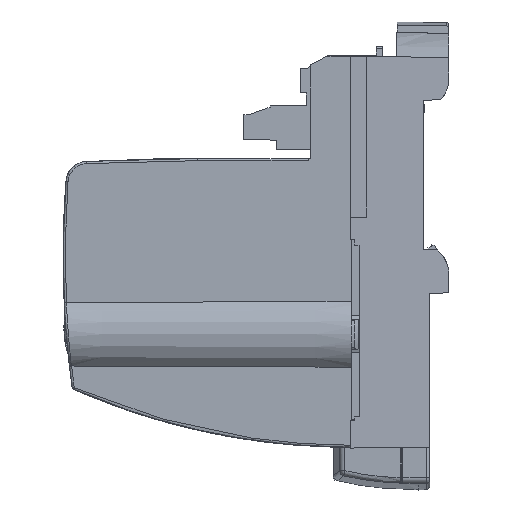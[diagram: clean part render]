
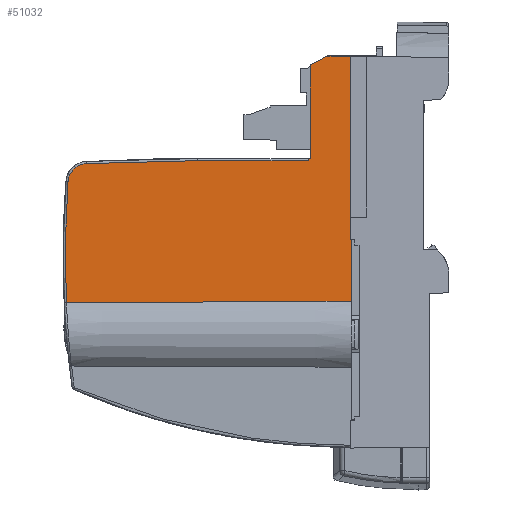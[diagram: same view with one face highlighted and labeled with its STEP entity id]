
A CAD part, left-side view. The second image highlights one B-rep face of the part: STEP entity #51032.
In plain terms, the highlighted planar face has unit normal (-1, 0.009, 0).
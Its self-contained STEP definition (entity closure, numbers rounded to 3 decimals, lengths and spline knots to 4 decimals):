
#291=DIRECTION('',(0.,0.,-1.));
#292=VECTOR('',#291,1.7088);
#293=CARTESIAN_POINT('',(2.7274,0.2813,0.7293));
#294=LINE('',#293,#292);
#303=DIRECTION('',(0.,0.,-1.));
#304=VECTOR('',#303,0.0003);
#305=CARTESIAN_POINT('',(2.7274,0.2763,
-0.9796));
#306=LINE('',#305,#304);
#307=DIRECTION('',(0.,0.,-1.));
#308=VECTOR('',#307,0.5803);
#309=CARTESIAN_POINT('',(2.7274,0.2763,
-0.9798));
#310=LINE('',#309,#308);
#311=DIRECTION('',(0.009,1.,0.));
#312=VECTOR('',#311,0.02);
#313=CARTESIAN_POINT('',(2.7307,0.6563,
-0.2248));
#314=LINE('',#313,#312);
#315=DIRECTION('',(0.,0.,-1.));
#316=VECTOR('',#315,0.876);
#317=CARTESIAN_POINT('',(2.7307,0.6563,0.6512));
#318=LINE('',#317,#316);
#319=DIRECTION('',(0.008,0.891,-0.454));
#320=VECTOR('',#319,0.174);
#321=CARTESIAN_POINT('',(2.7293,0.5013,0.7302));
#322=LINE('',#321,#320);
#323=DIRECTION('',(-0.009,-1.,0.));
#324=VECTOR('',#323,0.225);
#325=CARTESIAN_POINT('',(2.7293,0.5013,0.7302));
#326=LINE('',#325,#324);
#327=DIRECTION('',(0.,0.,-1.));
#328=VECTOR('',#327,0.0009);
#329=CARTESIAN_POINT('',(2.7274,0.2763,0.7302));
#330=LINE('',#329,#328);
#339=DIRECTION('',(-0.009,-1.,-0.009));
#340=VECTOR('',#339,0.005);
#341=CARTESIAN_POINT('',(2.7274,0.2813,
-0.9795));
#342=LINE('',#341,#340);
#2953=DIRECTION('',(-0.009,-1.,-0.009));
#2954=VECTOR('',#2953,0.005);
#2955=CARTESIAN_POINT('',(2.7274,0.2813,
0.7293));
#2956=LINE('',#2955,#2954);
#5787=CARTESIAN_POINT('',(2.7399,1.7122,
-0.2448));
#5788=CARTESIAN_POINT('',(2.7405,1.7815,
-0.2448));
#5789=CARTESIAN_POINT('',(2.7417,1.9202,
-0.2456));
#5790=CARTESIAN_POINT('',(2.7435,2.1282,
-0.2488));
#5791=CARTESIAN_POINT('',(2.7453,2.3361,
-0.2542));
#5792=CARTESIAN_POINT('',(2.7471,2.544,
-0.2618));
#5793=CARTESIAN_POINT('',(2.7484,2.6825,
-0.2683));
#5794=CARTESIAN_POINT('',(2.749,2.7518,
-0.2719));
#5810=CARTESIAN_POINT('',(2.749,2.7518,
-0.2719));
#5811=CARTESIAN_POINT('',(2.749,2.7555,-0.2721));
#5812=CARTESIAN_POINT('',(2.7491,2.763,
-0.2727));
#5813=CARTESIAN_POINT('',(2.7492,2.7742,
-0.2744));
#5814=CARTESIAN_POINT('',(2.7493,2.7852,
-0.2767));
#5815=CARTESIAN_POINT('',(2.7493,2.7961,
-0.2797));
#5816=CARTESIAN_POINT('',(2.7494,2.8067,
-0.2834));
#5817=CARTESIAN_POINT('',(2.7495,2.8172,
-0.2878));
#5818=CARTESIAN_POINT('',(2.7496,2.8273,
-0.2928));
#5819=CARTESIAN_POINT('',(2.7497,2.837,
-0.2984));
#5820=CARTESIAN_POINT('',(2.7498,2.8465,
-0.3047));
#5821=CARTESIAN_POINT('',(2.7499,2.8555,
-0.3115));
#5822=CARTESIAN_POINT('',(2.7499,2.864,
-0.3188));
#5823=CARTESIAN_POINT('',(2.75,2.8721,
-0.3267));
#5824=CARTESIAN_POINT('',(2.7501,2.8797,
-0.3351));
#5825=CARTESIAN_POINT('',(2.7501,2.8867,
-0.3439));
#5826=CARTESIAN_POINT('',(2.7502,2.8932,
-0.3531));
#5827=CARTESIAN_POINT('',(2.7502,2.8991,
-0.3628));
#5828=CARTESIAN_POINT('',(2.7503,2.9043,
-0.3728));
#5829=CARTESIAN_POINT('',(2.7503,2.9089,
-0.3831));
#5830=CARTESIAN_POINT('',(2.7504,2.9129,
-0.3936));
#5831=CARTESIAN_POINT('',(2.7504,2.9162,
-0.4044));
#5832=CARTESIAN_POINT('',(2.7504,2.9188,
-0.4154));
#5833=CARTESIAN_POINT('',(2.7504,2.9207,
-0.4265));
#5834=CARTESIAN_POINT('',(2.7504,2.9216,
-0.434));
#5835=CARTESIAN_POINT('',(2.7504,2.9219,
-0.4377));
#5870=CARTESIAN_POINT('',(2.7504,2.9219,
-0.4377));
#5871=CARTESIAN_POINT('',(2.7505,2.926,
-0.4916));
#5872=CARTESIAN_POINT('',(2.7505,2.9334,
-0.5994));
#5873=CARTESIAN_POINT('',(2.7506,2.9415,
-0.7612));
#5874=CARTESIAN_POINT('',(2.7507,2.9468,
-0.9232));
#5875=CARTESIAN_POINT('',(2.7507,2.9491,-1.0852));
#5876=CARTESIAN_POINT('',(2.7507,2.9484,-1.2472));
#5877=CARTESIAN_POINT('',(2.7506,2.9451,-1.4093));
#5878=CARTESIAN_POINT('',(2.7506,2.9402,-1.5172));
#5879=CARTESIAN_POINT('',(2.7506,2.9376,-1.5711));
#5897=CARTESIAN_POINT('',(2.7506,2.9376,-1.5711));
#6011=CARTESIAN_POINT('',(2.7506,2.9376,-1.5711));
#6012=CARTESIAN_POINT('',(2.7496,2.823,-1.5706));
#6013=CARTESIAN_POINT('',(2.7475,2.5842,-1.5696));
#6014=CARTESIAN_POINT('',(2.7441,2.1957,-1.568));
#6015=CARTESIAN_POINT('',(2.7404,1.7747,-1.5663));
#6016=CARTESIAN_POINT('',(2.7364,1.3178,-1.5644));
#6017=CARTESIAN_POINT('',(2.7321,0.8224,
-1.5624));
#6018=CARTESIAN_POINT('',(2.729,0.463,
-1.5609));
#6019=CARTESIAN_POINT('',(2.7274,0.2763,
-1.5601));
#40829=DIRECTION('',(0.009,1.,0.));
#40830=VECTOR('',#40829,1.0359);
#40831=CARTESIAN_POINT('',(2.7308,0.6763,
-0.2448));
#40832=LINE('',#40831,#40830);
#40837=DIRECTION('',(0.,0.,-1.));
#40838=VECTOR('',#40837,0.02);
#40839=CARTESIAN_POINT('',(2.7308,0.6763,
-0.2248));
#40840=LINE('',#40839,#40838);
#47143=CARTESIAN_POINT('',(2.7293,0.5013,
0.7302));
#47144=CARTESIAN_POINT('',(2.7274,0.2763,
0.7302));
#47145=VERTEX_POINT('',#47143);
#47146=VERTEX_POINT('',#47144);
#47205=CARTESIAN_POINT('',(2.7274,0.2763,
-0.9798));
#47206=VERTEX_POINT('',#47205);
#47207=CARTESIAN_POINT('',(2.7274,0.2763,
-1.5601));
#47208=VERTEX_POINT('',#47207);
#47741=VERTEX_POINT('',#5897);
#47750=VERTEX_POINT('',#5870);
#47752=VERTEX_POINT('',#5810);
#47754=VERTEX_POINT('',#5787);
#47756=CARTESIAN_POINT('',(2.7308,0.6763,
-0.2448));
#47757=VERTEX_POINT('',#47756);
#47802=CARTESIAN_POINT('',(2.7307,0.6563,
0.6512));
#47804=VERTEX_POINT('',#47802);
#47838=CARTESIAN_POINT('',(2.7307,0.6563,
-0.2248));
#47839=VERTEX_POINT('',#47838);
#47840=CARTESIAN_POINT('',(2.7308,0.6763,
-0.2248));
#47841=VERTEX_POINT('',#47840);
#49977=CARTESIAN_POINT('',(2.7274,0.2813,
0.7293));
#49978=CARTESIAN_POINT('',(2.7274,0.2813,
-0.9795));
#49979=VERTEX_POINT('',#49977);
#49980=VERTEX_POINT('',#49978);
#50157=CARTESIAN_POINT('',(2.7274,0.2763,
0.7292));
#50158=VERTEX_POINT('',#50157);
#50234=CARTESIAN_POINT('',(2.7274,0.2763,
-0.9796));
#50235=VERTEX_POINT('',#50234);
#50994=CARTESIAN_POINT('',(2.7274,0.2763,
0.88));
#50995=DIRECTION('',(1.,-0.009,0.));
#50996=DIRECTION('',(0.,0.,1.));
#50997=AXIS2_PLACEMENT_3D('',#50994,#50995,#50996);
#50998=PLANE('',#50997);
#50999=ORIENTED_EDGE('',*,*,#50981,.T.);
#51001=ORIENTED_EDGE('',*,*,#51000,.T.);
#51003=ORIENTED_EDGE('',*,*,#51002,.T.);
#51005=ORIENTED_EDGE('',*,*,#51004,.T.);
#51007=ORIENTED_EDGE('',*,*,#51006,.F.);
#51009=ORIENTED_EDGE('',*,*,#51008,.F.);
#51011=ORIENTED_EDGE('',*,*,#51010,.F.);
#51013=ORIENTED_EDGE('',*,*,#51012,.F.);
#51015=ORIENTED_EDGE('',*,*,#51014,.F.);
#51017=ORIENTED_EDGE('',*,*,#51016,.F.);
#51019=ORIENTED_EDGE('',*,*,#51018,.F.);
#51021=ORIENTED_EDGE('',*,*,#51020,.F.);
#51023=ORIENTED_EDGE('',*,*,#51022,.F.);
#51025=ORIENTED_EDGE('',*,*,#51024,.T.);
#51027=ORIENTED_EDGE('',*,*,#51026,.T.);
#51029=ORIENTED_EDGE('',*,*,#51028,.F.);
#51030=EDGE_LOOP('',(#50999,#51001,#51003,#51005,#51007,#51009,#51011,#51013,
#51015,#51017,#51019,#51021,#51023,#51025,#51027,#51029));
#51031=FACE_OUTER_BOUND('',#51030,.F.);
#51032=ADVANCED_FACE('',(#51031),#50998,.F.);
#5795=B_SPLINE_CURVE_WITH_KNOTS('',3,(#5787,#5788,#5789,#5790,#5791,#5792,#5793,
#5794),.UNSPECIFIED.,.F.,.F.,(4,1,1,1,1,4),(0.,0.2,0.4,0.6,0.8,1.),
.UNSPECIFIED.);
#5836=B_SPLINE_CURVE_WITH_KNOTS('',3,(#5810,#5811,#5812,#5813,#5814,#5815,#5816,
#5817,#5818,#5819,#5820,#5821,#5822,#5823,#5824,#5825,#5826,#5827,#5828,#5829,
#5830,#5831,#5832,#5833,#5834,#5835),.UNSPECIFIED.,.F.,.F.,(4,1,1,1,1,1,1,1,1,1,
1,1,1,1,1,1,1,1,1,1,1,1,1,4),(0.,0.0435,0.087,
0.1304,0.1739,0.2174,0.2609,
0.3043,0.3478,0.3913,0.4348,
0.4783,0.5217,0.5652,0.6087,
0.6522,0.6957,0.7391,0.7826,
0.8261,0.8696,0.913,0.9565,1.),
.UNSPECIFIED.);
#5880=B_SPLINE_CURVE_WITH_KNOTS('',3,(#5870,#5871,#5872,#5873,#5874,#5875,#5876,
#5877,#5878,#5879),.UNSPECIFIED.,.F.,.F.,(4,1,1,1,1,1,1,4),(0.,
0.1429,0.2857,0.4286,0.5714,
0.7143,0.8571,1.),.UNSPECIFIED.);
#6020=B_SPLINE_CURVE_WITH_KNOTS('',3,(#6011,#6012,#6013,#6014,#6015,#6016,#6017,
#6018,#6019),.UNSPECIFIED.,.F.,.F.,(4,1,1,1,1,1,4),(0.,0.1667,
0.3333,0.5,0.6667,0.8333,1.),
.UNSPECIFIED.);
#50981=EDGE_CURVE('',#49979,#49980,#294,.T.);
#51000=EDGE_CURVE('',#49980,#50235,#342,.T.);
#51002=EDGE_CURVE('',#50235,#47206,#306,.T.);
#51004=EDGE_CURVE('',#47206,#47208,#310,.T.);
#51006=EDGE_CURVE('',#47741,#47208,#6020,.T.);
#51008=EDGE_CURVE('',#47750,#47741,#5880,.T.);
#51010=EDGE_CURVE('',#47752,#47750,#5836,.T.);
#51012=EDGE_CURVE('',#47754,#47752,#5795,.T.);
#51014=EDGE_CURVE('',#47757,#47754,#40832,.T.);
#51016=EDGE_CURVE('',#47841,#47757,#40840,.T.);
#51018=EDGE_CURVE('',#47839,#47841,#314,.T.);
#51020=EDGE_CURVE('',#47804,#47839,#318,.T.);
#51022=EDGE_CURVE('',#47145,#47804,#322,.T.);
#51024=EDGE_CURVE('',#47145,#47146,#326,.T.);
#51026=EDGE_CURVE('',#47146,#50158,#330,.T.);
#51028=EDGE_CURVE('',#49979,#50158,#2956,.T.);
